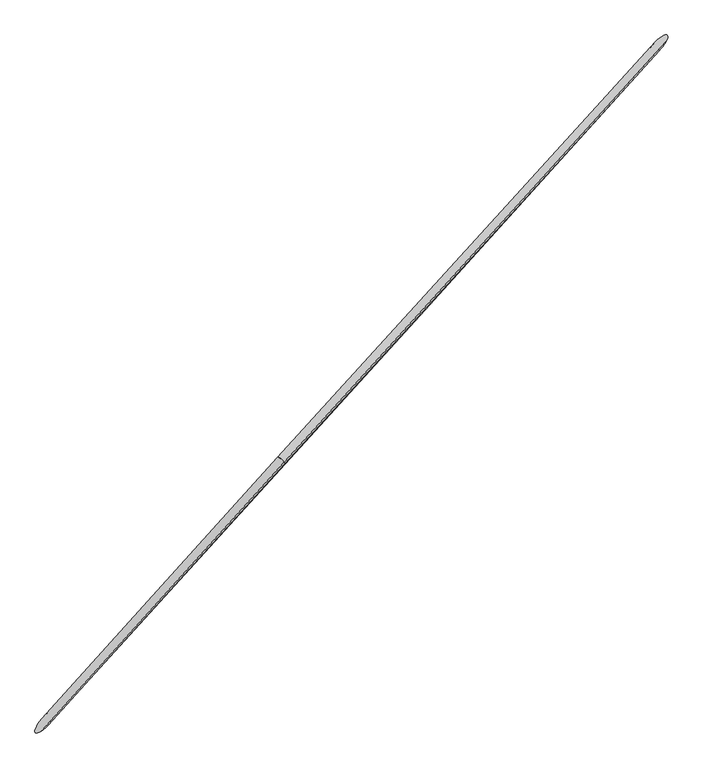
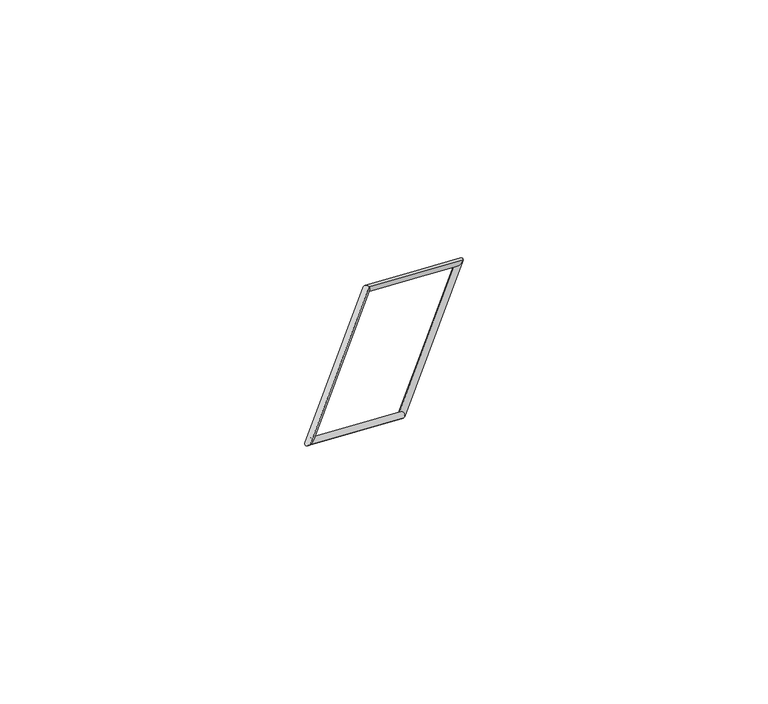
"""IFC4 building model written with IfcOpenShell, lengths in millimetres: proxy geometry, Família5 : Família5."""

from ifc_helpers import new_model, si_unit, frame, origin, place, context, project, spatial, ellipse_curve, source, transform, mapped, element, save
from ifc_brep_helpers import cylinder_surface, advanced_brep


def generic_models_5ec7350c(model_context):
    return source(origin(), model_context, "Body", "AdvancedBrep", [
        advanced_brep(
        [(-1485.1971197, -1545.1864563, 27.2266782), (-1399.4081566, -1362.7693854, -27.2266782), (615.4600763, 867.9775868, -27.2266782), (669.1452, 839.9782549, 27.2266782), (3887.6777768, 4468.3883553, -2993.1407607), (4060.8591391, 4571.8703561, -3046.9979169), (1872.809544, 2237.6413832, -2993.1407607), (1906.5168193, 2186.705645, -3046.9979169)],
        [
            (0, 1, ellipse_curve(frame((-1442.3026381, -1453.9779208, 0.0), z_axis=(0.17758009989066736, 0.20387827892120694, 0.9627559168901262), x_axis=(-0.6463459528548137, -0.7135555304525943, 0.27032464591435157)), 147.9683336, 40.0)),
            (1, 2),
            (2, 3, ellipse_curve(frame((642.3026381, 853.9779208, 0.0), z_axis=(-0.6463459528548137, -0.7135555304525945, 0.27032464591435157), x_axis=(-0.1775800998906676, -0.20387827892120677, -0.9627559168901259)), 41.5468622, 40.0)),
            (3, 0),
            (1, 0, ellipse_curve(frame((-1442.3026381, -1453.9779208, 0.0), z_axis=(0.17758009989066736, 0.20387827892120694, 0.9627559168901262), x_axis=(-0.6463459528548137, -0.7135555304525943, 0.27032464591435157)), 147.9683336, 40.0)),
            (3, 2, ellipse_curve(frame((642.3026381, 853.9779208, 0.0), z_axis=(-0.6463459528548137, -0.7135555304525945, 0.27032464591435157), x_axis=(-0.1775800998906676, -0.20387827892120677, -0.9627559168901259)), 41.5468622, 40.0)),
            (2, 4),
            (4, 5, ellipse_curve(frame((3974.2684579, 4520.1293557, -3020.0693388), z_axis=(0.17758009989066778, 0.203878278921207, 0.9627559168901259), x_axis=(-0.6463459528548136, -0.7135555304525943, 0.27032464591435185)), 147.9683336, 40.0)),
            (5, 3),
            (5, 4, ellipse_curve(frame((3974.2684579, 4520.1293557, -3020.0693388), z_axis=(0.17758009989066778, 0.203878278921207, 0.9627559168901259), x_axis=(-0.6463459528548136, -0.7135555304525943, 0.27032464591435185)), 147.9683336, 40.0)),
            (4, 6),
            (6, 7, ellipse_curve(frame((1889.6631817, 2212.1735141, -3020.0693388), z_axis=(0.6463459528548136, 0.7135555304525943, -0.2703246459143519), x_axis=(0.17758009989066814, 0.20387827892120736, 0.9627559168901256)), 41.5468622, 40.0)),
            (7, 5),
            (7, 6, ellipse_curve(frame((1889.6631817, 2212.1735141, -3020.0693388), z_axis=(0.6463459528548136, 0.7135555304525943, -0.2703246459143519), x_axis=(0.17758009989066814, 0.20387827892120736, 0.9627559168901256)), 41.5468622, 40.0)),
            (6, 1),
            (0, 7),
        ],
        [
            cylinder_surface(frame((-1442.3026381, -1453.9779208, 0.0), z_axis=(-0.6702862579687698, -0.7421026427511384, 0.0), x_axis=(-0.5051247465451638, 0.45624170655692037, 0.7325929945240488)), 40.0),
            cylinder_surface(frame((642.3026381, 853.9779208, 0.0), z_axis=(-0.5742764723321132, -0.6318745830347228, 0.520519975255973), x_axis=(-0.24791850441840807, 0.7401932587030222, 0.6250202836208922)), 40.0),
            cylinder_surface(frame((3974.2684579, 4520.1293557, -3020.0693388), z_axis=(0.6702862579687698, 0.7421026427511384, 0.0), x_axis=(-0.4995942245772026, 0.45124639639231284, -0.7394472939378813)), 40.0),
            cylinder_surface(frame((1889.6631817, 2212.1735141, -3020.0693388), z_axis=(0.5742764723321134, 0.6318745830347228, -0.5205199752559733), x_axis=(-0.7568004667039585, 0.1672948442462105, -0.6318745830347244)), 40.0),
        ],
        [
            (0, [[1, 2, 3, 4]]),
            (0, [[5, -4, 6, -2]]),
            (1, [[-3, 7, 8, 9]]),
            (1, [[-6, -9, 10, -7]]),
            (2, [[-8, 11, 12, 13]]),
            (2, [[-10, -13, 14, -11]]),
            (3, [[-12, 15, -1, 16]]),
            (3, [[-14, -16, -5, -15]]),
        ],
    ),
    ])


if __name__ == "__main__":
    model = new_model("IFC4")
    model_context = context("Model", 3, world=origin())
    ifc_project = project(units=[si_unit("LENGTHUNIT", "METRE", prefix="MILLI")], contexts=[model_context])
    site = spatial("IfcSite", under=ifc_project)
    building = spatial("IfcBuilding", under=site)
    placement = place(None, origin())
    generic_models_shape = generic_models_5ec7350c(model_context)
    element("IfcBuildingElementProxy", 1, Name="Família5 : Família5", ObjectType="Família5 : Família5", at=placement, inside=building, context=model_context, shape_type="MappedRepresentation", body=[
        mapped(generic_models_shape, transform((0.0, 0.0, 0.0), x_axis=(1.0, 0.0, 0.0), y_axis=(0.0, 1.0, 0.0), z_axis=(0.0, 0.0, 1.0))),
    ])
    save(model, "model.ifc")
